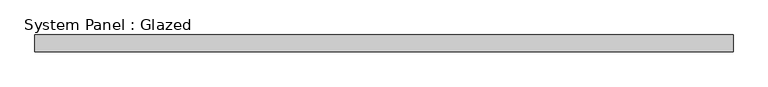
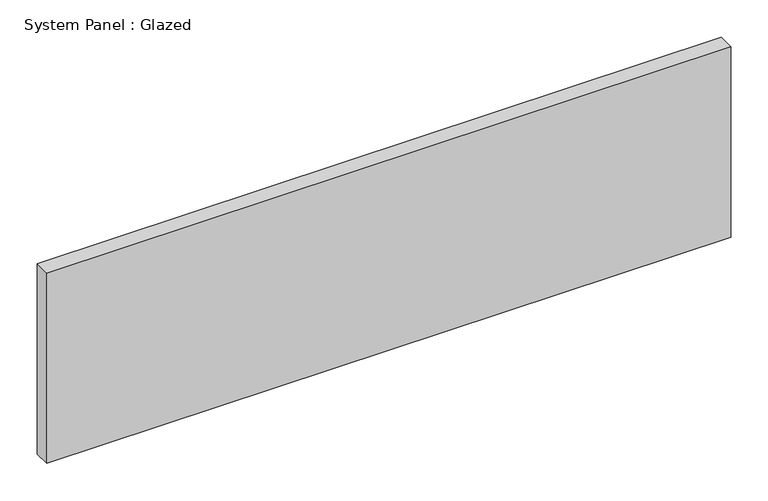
"""IFC4 building model written with IfcOpenShell, lengths in millimetres: plate geometry, System Panel : Glazed."""

from ifc_helpers import new_model, si_unit, origin, origin_with_axes, place, context, project, spatial, polyline, outline, extrude, source, transform, mapped, element, save


def system_panel_glazed_703e904c(model_context):
    return source(origin(), model_context, "Body", "SweptSolid", [
        extrude(outline(polyline([(528.4107143, 19.05), (-528.4107143, 19.05), (-528.4107143, 44.45), (528.4107143, 44.45), (528.4107143, 19.05)])), origin_with_axes(), (0.0, 0.0, 1.0), 310.8709562),
    ])


if __name__ == "__main__":
    model = new_model("IFC4")
    model_context = context("Model", 3, world=origin())
    ifc_project = project(units=[si_unit("LENGTHUNIT", "METRE", prefix="MILLI")], contexts=[model_context])
    site = spatial("IfcSite", under=ifc_project)
    building = spatial("IfcBuilding", under=site)
    placement = place(None, origin())
    system_panel_glazed_shape = system_panel_glazed_703e904c(model_context)
    element("IfcPlate", 1, ObjectType="System Panel : Glazed", at=placement, inside=building, context=model_context, shape_type="MappedRepresentation", body=[
        mapped(system_panel_glazed_shape, transform((0.0, 0.0, 0.0), x_axis=(1.0, 0.0, 0.0), y_axis=(0.0, 1.0, 0.0), z_axis=(0.0, 0.0, 1.0))),
    ])
    save(model, "model.ifc")
